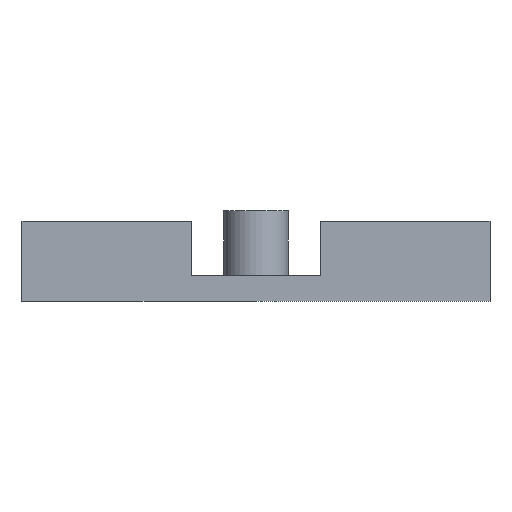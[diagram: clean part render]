
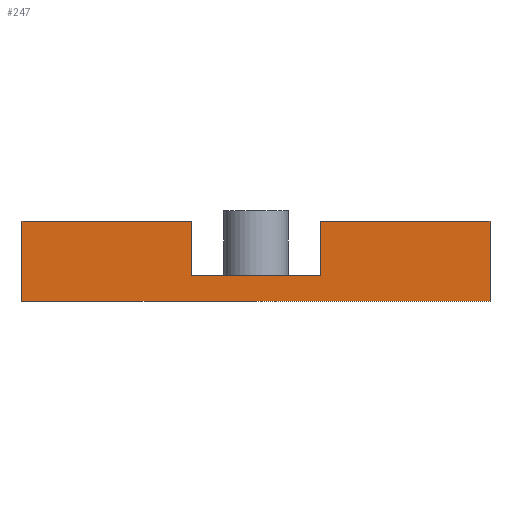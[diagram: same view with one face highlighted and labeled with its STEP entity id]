
A CAD part, front view. The second image highlights one B-rep face of the part: STEP entity #247.
In plain terms, the highlighted planar face has unit normal (0, -1, 0).
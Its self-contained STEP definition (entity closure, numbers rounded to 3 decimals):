
#21 = EDGE_CURVE('',#22,#24,#26,.T.);
#22 = VERTEX_POINT('',#23);
#23 = CARTESIAN_POINT('',(0.,0.,0.));
#24 = VERTEX_POINT('',#25);
#25 = CARTESIAN_POINT('',(0.,0.,7.4));
#26 = SURFACE_CURVE('',#27,(#31,#43),.PCURVE_S1.);
#27 = LINE('',#28,#29);
#28 = CARTESIAN_POINT('',(0.,0.,0.));
#29 = VECTOR('',#30,1.);
#30 = DIRECTION('',(0.,0.,1.));
#31 = PCURVE('',#32,#37);
#32 = PLANE('',#33);
#33 = AXIS2_PLACEMENT_3D('',#34,#35,#36);
#34 = CARTESIAN_POINT('',(0.,0.,0.));
#35 = DIRECTION('',(1.,0.,-0.));
#36 = DIRECTION('',(0.,0.,1.));
#37 = DEFINITIONAL_REPRESENTATION('',(#38),#42);
#38 = LINE('',#39,#40);
#39 = CARTESIAN_POINT('',(0.,0.));
#40 = VECTOR('',#41,1.);
#41 = DIRECTION('',(1.,0.));
#42 = ( GEOMETRIC_REPRESENTATION_CONTEXT(2) 
PARAMETRIC_REPRESENTATION_CONTEXT() REPRESENTATION_CONTEXT('2D SPACE',''
  ) );
#43 = PCURVE('',#44,#49);
#44 = PLANE('',#45);
#45 = AXIS2_PLACEMENT_3D('',#46,#47,#48);
#46 = CARTESIAN_POINT('',(0.,0.,0.));
#47 = DIRECTION('',(-0.,1.,0.));
#48 = DIRECTION('',(0.,0.,1.));
#49 = DEFINITIONAL_REPRESENTATION('',(#50),#54);
#50 = LINE('',#51,#52);
#51 = CARTESIAN_POINT('',(0.,0.));
#52 = VECTOR('',#53,1.);
#53 = DIRECTION('',(1.,0.));
#54 = ( GEOMETRIC_REPRESENTATION_CONTEXT(2) 
PARAMETRIC_REPRESENTATION_CONTEXT() REPRESENTATION_CONTEXT('2D SPACE',''
  ) );
#72 = PLANE('',#73);
#73 = AXIS2_PLACEMENT_3D('',#74,#75,#76);
#74 = CARTESIAN_POINT('',(0.,0.,0.));
#75 = DIRECTION('',(0.,0.,1.));
#76 = DIRECTION('',(1.,0.,-0.));
#183 = PLANE('',#184);
#184 = AXIS2_PLACEMENT_3D('',#185,#186,#187);
#185 = CARTESIAN_POINT('',(0.,0.,2.4));
#186 = DIRECTION('',(0.,0.,1.));
#187 = DIRECTION('',(1.,0.,-0.));
#236 = PLANE('',#237);
#237 = AXIS2_PLACEMENT_3D('',#238,#239,#240);
#238 = CARTESIAN_POINT('',(0.,0.,7.4));
#239 = DIRECTION('',(0.,0.,1.));
#240 = DIRECTION('',(1.,0.,-0.));
#247 = ADVANCED_FACE('',(#248),#44,.F.);
#248 = FACE_BOUND('',#249,.F.);
#249 = EDGE_LOOP('',(#250,#273,#274,#297,#324,#347,#374,#402));
#250 = ORIENTED_EDGE('',*,*,#251,.F.);
#251 = EDGE_CURVE('',#22,#252,#254,.T.);
#252 = VERTEX_POINT('',#253);
#253 = CARTESIAN_POINT('',(43.3,0.,0.));
#254 = SURFACE_CURVE('',#255,(#259,#266),.PCURVE_S1.);
#255 = LINE('',#256,#257);
#256 = CARTESIAN_POINT('',(0.,0.,0.));
#257 = VECTOR('',#258,1.);
#258 = DIRECTION('',(1.,0.,-0.));
#259 = PCURVE('',#44,#260);
#260 = DEFINITIONAL_REPRESENTATION('',(#261),#265);
#261 = LINE('',#262,#263);
#262 = CARTESIAN_POINT('',(0.,0.));
#263 = VECTOR('',#264,1.);
#264 = DIRECTION('',(0.,1.));
#265 = ( GEOMETRIC_REPRESENTATION_CONTEXT(2) 
PARAMETRIC_REPRESENTATION_CONTEXT() REPRESENTATION_CONTEXT('2D SPACE',''
  ) );
#266 = PCURVE('',#72,#267);
#267 = DEFINITIONAL_REPRESENTATION('',(#268),#272);
#268 = LINE('',#269,#270);
#269 = CARTESIAN_POINT('',(0.,0.));
#270 = VECTOR('',#271,1.);
#271 = DIRECTION('',(1.,0.));
#272 = ( GEOMETRIC_REPRESENTATION_CONTEXT(2) 
PARAMETRIC_REPRESENTATION_CONTEXT() REPRESENTATION_CONTEXT('2D SPACE',''
  ) );
#273 = ORIENTED_EDGE('',*,*,#21,.T.);
#274 = ORIENTED_EDGE('',*,*,#275,.T.);
#275 = EDGE_CURVE('',#24,#276,#278,.T.);
#276 = VERTEX_POINT('',#277);
#277 = CARTESIAN_POINT('',(15.65,0.,7.4));
#278 = SURFACE_CURVE('',#279,(#283,#290),.PCURVE_S1.);
#279 = LINE('',#280,#281);
#280 = CARTESIAN_POINT('',(0.,0.,7.4));
#281 = VECTOR('',#282,1.);
#282 = DIRECTION('',(1.,0.,-0.));
#283 = PCURVE('',#44,#284);
#284 = DEFINITIONAL_REPRESENTATION('',(#285),#289);
#285 = LINE('',#286,#287);
#286 = CARTESIAN_POINT('',(7.4,0.));
#287 = VECTOR('',#288,1.);
#288 = DIRECTION('',(0.,1.));
#289 = ( GEOMETRIC_REPRESENTATION_CONTEXT(2) 
PARAMETRIC_REPRESENTATION_CONTEXT() REPRESENTATION_CONTEXT('2D SPACE',''
  ) );
#290 = PCURVE('',#236,#291);
#291 = DEFINITIONAL_REPRESENTATION('',(#292),#296);
#292 = LINE('',#293,#294);
#293 = CARTESIAN_POINT('',(0.,0.));
#294 = VECTOR('',#295,1.);
#295 = DIRECTION('',(1.,0.));
#296 = ( GEOMETRIC_REPRESENTATION_CONTEXT(2) 
PARAMETRIC_REPRESENTATION_CONTEXT() REPRESENTATION_CONTEXT('2D SPACE',''
  ) );
#297 = ORIENTED_EDGE('',*,*,#298,.T.);
#298 = EDGE_CURVE('',#276,#299,#301,.T.);
#299 = VERTEX_POINT('',#300);
#300 = CARTESIAN_POINT('',(15.65,0.,2.4));
#301 = SURFACE_CURVE('',#302,(#306,#313),.PCURVE_S1.);
#302 = LINE('',#303,#304);
#303 = CARTESIAN_POINT('',(15.65,0.,2.4));
#304 = VECTOR('',#305,1.);
#305 = DIRECTION('',(-0.,0.,-1.));
#306 = PCURVE('',#44,#307);
#307 = DEFINITIONAL_REPRESENTATION('',(#308),#312);
#308 = LINE('',#309,#310);
#309 = CARTESIAN_POINT('',(2.4,15.65));
#310 = VECTOR('',#311,1.);
#311 = DIRECTION('',(-1.,0.));
#312 = ( GEOMETRIC_REPRESENTATION_CONTEXT(2) 
PARAMETRIC_REPRESENTATION_CONTEXT() REPRESENTATION_CONTEXT('2D SPACE',''
  ) );
#313 = PCURVE('',#314,#319);
#314 = PLANE('',#315);
#315 = AXIS2_PLACEMENT_3D('',#316,#317,#318);
#316 = CARTESIAN_POINT('',(15.65,-0.1,2.4));
#317 = DIRECTION('',(1.,0.,-0.));
#318 = DIRECTION('',(0.,0.,1.));
#319 = DEFINITIONAL_REPRESENTATION('',(#320),#323);
#320 = B_SPLINE_CURVE_WITH_KNOTS('',1,(#321,#322),.UNSPECIFIED.,.F.,.F.,
  (2,2),(-5.,0.),.PIECEWISE_BEZIER_KNOTS.);
#321 = CARTESIAN_POINT('',(5.,-0.1));
#322 = CARTESIAN_POINT('',(0.,-0.1));
#323 = ( GEOMETRIC_REPRESENTATION_CONTEXT(2) 
PARAMETRIC_REPRESENTATION_CONTEXT() REPRESENTATION_CONTEXT('2D SPACE',''
  ) );
#324 = ORIENTED_EDGE('',*,*,#325,.T.);
#325 = EDGE_CURVE('',#299,#326,#328,.T.);
#326 = VERTEX_POINT('',#327);
#327 = CARTESIAN_POINT('',(27.65,0.,2.4));
#328 = SURFACE_CURVE('',#329,(#333,#340),.PCURVE_S1.);
#329 = LINE('',#330,#331);
#330 = CARTESIAN_POINT('',(0.,0.,2.4));
#331 = VECTOR('',#332,1.);
#332 = DIRECTION('',(1.,0.,-0.));
#333 = PCURVE('',#44,#334);
#334 = DEFINITIONAL_REPRESENTATION('',(#335),#339);
#335 = LINE('',#336,#337);
#336 = CARTESIAN_POINT('',(2.4,0.));
#337 = VECTOR('',#338,1.);
#338 = DIRECTION('',(0.,1.));
#339 = ( GEOMETRIC_REPRESENTATION_CONTEXT(2) 
PARAMETRIC_REPRESENTATION_CONTEXT() REPRESENTATION_CONTEXT('2D SPACE',''
  ) );
#340 = PCURVE('',#183,#341);
#341 = DEFINITIONAL_REPRESENTATION('',(#342),#346);
#342 = LINE('',#343,#344);
#343 = CARTESIAN_POINT('',(0.,0.));
#344 = VECTOR('',#345,1.);
#345 = DIRECTION('',(1.,0.));
#346 = ( GEOMETRIC_REPRESENTATION_CONTEXT(2) 
PARAMETRIC_REPRESENTATION_CONTEXT() REPRESENTATION_CONTEXT('2D SPACE',''
  ) );
#347 = ORIENTED_EDGE('',*,*,#348,.F.);
#348 = EDGE_CURVE('',#349,#326,#351,.T.);
#349 = VERTEX_POINT('',#350);
#350 = CARTESIAN_POINT('',(27.65,0.,7.4));
#351 = SURFACE_CURVE('',#352,(#356,#363),.PCURVE_S1.);
#352 = LINE('',#353,#354);
#353 = CARTESIAN_POINT('',(27.65,0.,2.4));
#354 = VECTOR('',#355,1.);
#355 = DIRECTION('',(-0.,0.,-1.));
#356 = PCURVE('',#44,#357);
#357 = DEFINITIONAL_REPRESENTATION('',(#358),#362);
#358 = LINE('',#359,#360);
#359 = CARTESIAN_POINT('',(2.4,27.65));
#360 = VECTOR('',#361,1.);
#361 = DIRECTION('',(-1.,0.));
#362 = ( GEOMETRIC_REPRESENTATION_CONTEXT(2) 
PARAMETRIC_REPRESENTATION_CONTEXT() REPRESENTATION_CONTEXT('2D SPACE',''
  ) );
#363 = PCURVE('',#364,#369);
#364 = PLANE('',#365);
#365 = AXIS2_PLACEMENT_3D('',#366,#367,#368);
#366 = CARTESIAN_POINT('',(27.65,-0.1,2.4));
#367 = DIRECTION('',(1.,0.,-0.));
#368 = DIRECTION('',(0.,0.,1.));
#369 = DEFINITIONAL_REPRESENTATION('',(#370),#373);
#370 = B_SPLINE_CURVE_WITH_KNOTS('',1,(#371,#372),.UNSPECIFIED.,.F.,.F.,
  (2,2),(-5.,0.),.PIECEWISE_BEZIER_KNOTS.);
#371 = CARTESIAN_POINT('',(5.,-0.1));
#372 = CARTESIAN_POINT('',(0.,-0.1));
#373 = ( GEOMETRIC_REPRESENTATION_CONTEXT(2) 
PARAMETRIC_REPRESENTATION_CONTEXT() REPRESENTATION_CONTEXT('2D SPACE',''
  ) );
#374 = ORIENTED_EDGE('',*,*,#375,.T.);
#375 = EDGE_CURVE('',#349,#376,#378,.T.);
#376 = VERTEX_POINT('',#377);
#377 = CARTESIAN_POINT('',(43.3,0.,7.4));
#378 = SURFACE_CURVE('',#379,(#383,#390),.PCURVE_S1.);
#379 = LINE('',#380,#381);
#380 = CARTESIAN_POINT('',(0.,0.,7.4));
#381 = VECTOR('',#382,1.);
#382 = DIRECTION('',(1.,0.,-0.));
#383 = PCURVE('',#44,#384);
#384 = DEFINITIONAL_REPRESENTATION('',(#385),#389);
#385 = LINE('',#386,#387);
#386 = CARTESIAN_POINT('',(7.4,0.));
#387 = VECTOR('',#388,1.);
#388 = DIRECTION('',(0.,1.));
#389 = ( GEOMETRIC_REPRESENTATION_CONTEXT(2) 
PARAMETRIC_REPRESENTATION_CONTEXT() REPRESENTATION_CONTEXT('2D SPACE',''
  ) );
#390 = PCURVE('',#391,#396);
#391 = PLANE('',#392);
#392 = AXIS2_PLACEMENT_3D('',#393,#394,#395);
#393 = CARTESIAN_POINT('',(0.,0.,7.4));
#394 = DIRECTION('',(0.,0.,1.));
#395 = DIRECTION('',(1.,0.,-0.));
#396 = DEFINITIONAL_REPRESENTATION('',(#397),#401);
#397 = LINE('',#398,#399);
#398 = CARTESIAN_POINT('',(0.,0.));
#399 = VECTOR('',#400,1.);
#400 = DIRECTION('',(1.,0.));
#401 = ( GEOMETRIC_REPRESENTATION_CONTEXT(2) 
PARAMETRIC_REPRESENTATION_CONTEXT() REPRESENTATION_CONTEXT('2D SPACE',''
  ) );
#402 = ORIENTED_EDGE('',*,*,#403,.F.);
#403 = EDGE_CURVE('',#252,#376,#404,.T.);
#404 = SURFACE_CURVE('',#405,(#409,#416),.PCURVE_S1.);
#405 = LINE('',#406,#407);
#406 = CARTESIAN_POINT('',(43.3,0.,0.));
#407 = VECTOR('',#408,1.);
#408 = DIRECTION('',(0.,0.,1.));
#409 = PCURVE('',#44,#410);
#410 = DEFINITIONAL_REPRESENTATION('',(#411),#415);
#411 = LINE('',#412,#413);
#412 = CARTESIAN_POINT('',(0.,43.3));
#413 = VECTOR('',#414,1.);
#414 = DIRECTION('',(1.,0.));
#415 = ( GEOMETRIC_REPRESENTATION_CONTEXT(2) 
PARAMETRIC_REPRESENTATION_CONTEXT() REPRESENTATION_CONTEXT('2D SPACE',''
  ) );
#416 = PCURVE('',#417,#422);
#417 = PLANE('',#418);
#418 = AXIS2_PLACEMENT_3D('',#419,#420,#421);
#419 = CARTESIAN_POINT('',(43.3,0.,0.));
#420 = DIRECTION('',(1.,0.,-0.));
#421 = DIRECTION('',(0.,0.,1.));
#422 = DEFINITIONAL_REPRESENTATION('',(#423),#427);
#423 = LINE('',#424,#425);
#424 = CARTESIAN_POINT('',(0.,0.));
#425 = VECTOR('',#426,1.);
#426 = DIRECTION('',(1.,0.));
#427 = ( GEOMETRIC_REPRESENTATION_CONTEXT(2) 
PARAMETRIC_REPRESENTATION_CONTEXT() REPRESENTATION_CONTEXT('2D SPACE',''
  ) );
